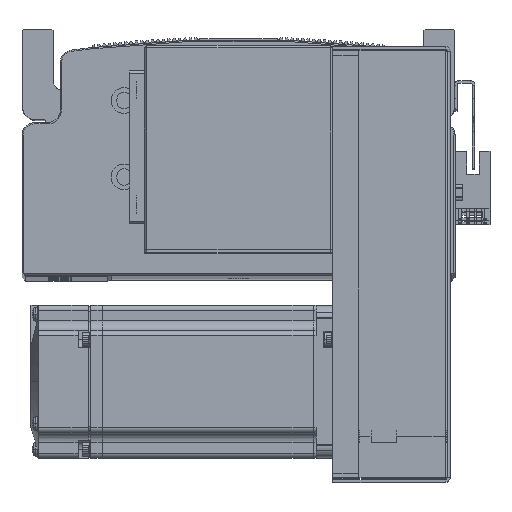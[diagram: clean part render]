
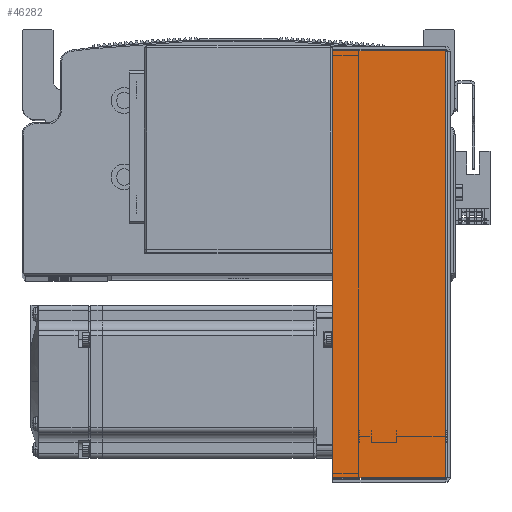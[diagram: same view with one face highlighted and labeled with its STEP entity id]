
A CAD part, top view. The second image highlights one B-rep face of the part: STEP entity #46282.
In plain terms, the highlighted planar face has unit normal (0, 0, 1) as drawn and (0, 0, -1) by its records, which use the part's own axes.
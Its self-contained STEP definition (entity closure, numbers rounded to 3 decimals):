
#16132 = VECTOR ( 'NONE', #41297, 1000. ) ;
#16152 = LINE ( 'NONE', #41216, #16168 ) ;
#16159 = LINE ( 'NONE', #41141, #16132 ) ;
#16168 = VECTOR ( 'NONE', #41221, 1000. ) ;
#16325 = LINE ( 'NONE', #41701, #16333 ) ;
#16333 = VECTOR ( 'NONE', #41666, 1000. ) ;
#16375 = LINE ( 'NONE', #41646, #16376 ) ;
#16376 = VECTOR ( 'NONE', #41703, 1000. ) ;
#22171 = FACE_OUTER_BOUND ( 'NONE', #69316, .T. ) ;
#31132 = AXIS2_PLACEMENT_3D ( 'NONE', #52288, #52272, #52271 ) ;
#39940 = CARTESIAN_POINT ( 'NONE',  ( -83.793, 0.737, -40.5 ) ) ;
#40031 = CARTESIAN_POINT ( 'NONE',  ( 83.793, 0.737, -40.5 ) ) ;
#40111 = CARTESIAN_POINT ( 'NONE',  ( 83.793, 45., -40.5 ) ) ;
#40430 = CARTESIAN_POINT ( 'NONE',  ( -83.793, 45., -40.5 ) ) ;
#41141 = CARTESIAN_POINT ( 'NONE',  ( 0., 0.737, -40.5 ) ) ;
#41216 = CARTESIAN_POINT ( 'NONE',  ( 84.5, 45., -40.5 ) ) ;
#41221 = DIRECTION ( 'NONE',  ( 1., 0., 0. ) ) ;
#41297 = DIRECTION ( 'NONE',  ( 1., 0., 0. ) ) ;
#41646 = CARTESIAN_POINT ( 'NONE',  ( -83.793, 0., -40.5 ) ) ;
#41666 = DIRECTION ( 'NONE',  ( 0., 1., 0. ) ) ;
#41701 = CARTESIAN_POINT ( 'NONE',  ( 83.793, 0., -40.5 ) ) ;
#41703 = DIRECTION ( 'NONE',  ( 0., 1., 0. ) ) ;
#46282 = ADVANCED_FACE ( 'NONE', ( #22171 ), #52264, .F. ) ;
#52264 = PLANE ( 'NONE',  #31132 ) ;
#52271 = DIRECTION ( 'NONE',  ( 0., -1., 0. ) ) ;
#52272 = DIRECTION ( 'NONE',  ( 0., 0., 1. ) ) ;
#52288 = CARTESIAN_POINT ( 'NONE',  ( 0., 0., -40.5 ) ) ;
#58700 = VERTEX_POINT ( 'NONE', #39940 ) ;
#58754 = VERTEX_POINT ( 'NONE', #40031 ) ;
#58771 = VERTEX_POINT ( 'NONE', #40111 ) ;
#58899 = VERTEX_POINT ( 'NONE', #40430 ) ;
#59255 = EDGE_CURVE ( 'NONE', #58700, #58754, #16159, .T. ) ;
#59272 = EDGE_CURVE ( 'NONE', #58899, #58771, #16152, .T. ) ;
#59365 = EDGE_CURVE ( 'NONE', #58754, #58771, #16325, .T. ) ;
#59370 = EDGE_CURVE ( 'NONE', #58700, #58899, #16375, .T. ) ;
#62963 = ORIENTED_EDGE ( 'NONE', *, *, #59255, .F. ) ;
#62986 = ORIENTED_EDGE ( 'NONE', *, *, #59365, .F. ) ;
#63023 = ORIENTED_EDGE ( 'NONE', *, *, #59272, .T. ) ;
#63028 = ORIENTED_EDGE ( 'NONE', *, *, #59370, .T. ) ;
#69316 = EDGE_LOOP ( 'NONE', ( #62963, #63028, #63023, #62986 ) ) ;
